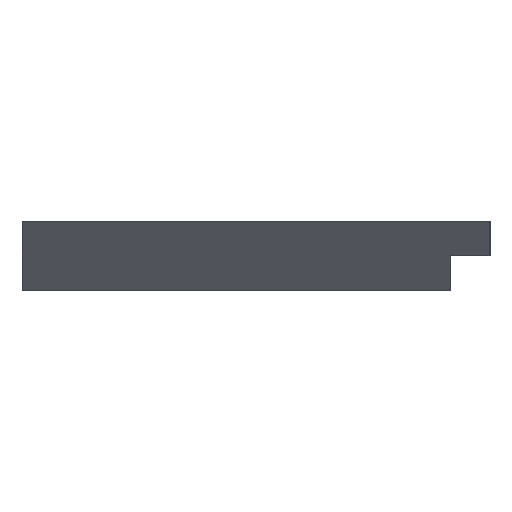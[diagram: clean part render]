
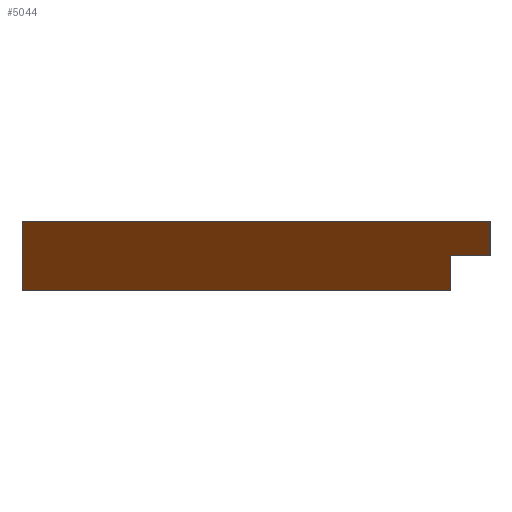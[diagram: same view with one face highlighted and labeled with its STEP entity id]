
A CAD part, left-side view. The second image highlights one B-rep face of the part: STEP entity #5044.
In plain terms, the highlighted planar face has unit normal (-0.707, 0, -0.707).
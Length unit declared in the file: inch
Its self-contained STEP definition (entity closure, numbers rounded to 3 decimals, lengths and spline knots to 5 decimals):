
#39 = CARTESIAN_POINT ( 'NONE',  ( -4.1875, 3., 2.6875 ) ) ;
#253 = CARTESIAN_POINT ( 'NONE',  ( -4.1875, 0.25, 2.6875 ) ) ;
#365 = DIRECTION ( 'NONE',  ( 0.707, 0., -0.707 ) ) ;
#440 = EDGE_CURVE ( 'NONE', #3959, #4846, #1475, .T. ) ;
#489 = CARTESIAN_POINT ( 'NONE',  ( -3.96875, 0.25, 2.46875 ) ) ;
#574 = CARTESIAN_POINT ( 'NONE',  ( -3.75, 0.25, 2.25 ) ) ;
#646 = CARTESIAN_POINT ( 'NONE',  ( -3.96875, 0.25, 2.46875 ) ) ;
#785 = DIRECTION ( 'NONE',  ( 0.707, 0., -0.707 ) ) ;
#872 = ORIENTED_EDGE ( 'NONE', *, *, #3588, .T. ) ;
#939 = VECTOR ( 'NONE', #5051, 39.37008 ) ;
#950 = VECTOR ( 'NONE', #3442, 39.37008 ) ;
#978 = CARTESIAN_POINT ( 'NONE',  ( -4.1875, 0., 2.6875 ) ) ;
#984 = CARTESIAN_POINT ( 'NONE',  ( -4.1875, 0., 2.6875 ) ) ;
#999 = LINE ( 'NONE', #1407, #4259 ) ;
#1017 = VECTOR ( 'NONE', #785, 39.37008 ) ;
#1060 = CARTESIAN_POINT ( 'NONE',  ( -4.1875, 3., 2.6875 ) ) ;
#1267 = ORIENTED_EDGE ( 'NONE', *, *, #1866, .T. ) ;
#1407 = CARTESIAN_POINT ( 'NONE',  ( -3.75, 3., 2.25 ) ) ;
#1424 = VECTOR ( 'NONE', #365, 39.37008 ) ;
#1475 = LINE ( 'NONE', #253, #2748 ) ;
#1572 = EDGE_LOOP ( 'NONE', ( #3565, #872, #4672, #1603, #1267, #4575 ) ) ;
#1603 = ORIENTED_EDGE ( 'NONE', *, *, #4686, .F. ) ;
#1783 = DIRECTION ( 'NONE',  ( 0.707, 0., 0.707 ) ) ;
#1866 = EDGE_CURVE ( 'NONE', #1967, #3900, #1954, .T. ) ;
#1954 = LINE ( 'NONE', #39, #1017 ) ;
#1967 = VERTEX_POINT ( 'NONE', #3801 ) ;
#1987 = AXIS2_PLACEMENT_3D ( 'NONE', #984, #1783, #2598 ) ;
#2127 = EDGE_CURVE ( 'NONE', #4694, #3257, #3424, .T. ) ;
#2572 = FACE_OUTER_BOUND ( 'NONE', #1572, .T. ) ;
#2598 = DIRECTION ( 'NONE',  ( 0.707, 0., -0.707 ) ) ;
#2748 = VECTOR ( 'NONE', #4127, 39.37008 ) ;
#3257 = VERTEX_POINT ( 'NONE', #4369 ) ;
#3325 = PLANE ( 'NONE',  #1987 ) ;
#3424 = LINE ( 'NONE', #4727, #1424 ) ;
#3442 = DIRECTION ( 'NONE',  ( 0., -1., 0. ) ) ;
#3565 = ORIENTED_EDGE ( 'NONE', *, *, #440, .F. ) ;
#3588 = EDGE_CURVE ( 'NONE', #3959, #3257, #4207, .T. ) ;
#3801 = CARTESIAN_POINT ( 'NONE',  ( -4.1875, 3., 2.6875 ) ) ;
#3900 = VERTEX_POINT ( 'NONE', #4391 ) ;
#3959 = VERTEX_POINT ( 'NONE', #489 ) ;
#4107 = EDGE_CURVE ( 'NONE', #3900, #4846, #999, .T. ) ;
#4127 = DIRECTION ( 'NONE',  ( 0.707, 0., -0.707 ) ) ;
#4207 = LINE ( 'NONE', #646, #950 ) ;
#4259 = VECTOR ( 'NONE', #4554, 39.37008 ) ;
#4315 = LINE ( 'NONE', #1060, #939 ) ;
#4369 = CARTESIAN_POINT ( 'NONE',  ( -3.96875, 0., 2.46875 ) ) ;
#4391 = CARTESIAN_POINT ( 'NONE',  ( -3.75, 3., 2.25 ) ) ;
#4554 = DIRECTION ( 'NONE',  ( 0., -1., 0. ) ) ;
#4575 = ORIENTED_EDGE ( 'NONE', *, *, #4107, .T. ) ;
#4672 = ORIENTED_EDGE ( 'NONE', *, *, #2127, .F. ) ;
#4686 = EDGE_CURVE ( 'NONE', #1967, #4694, #4315, .T. ) ;
#4694 = VERTEX_POINT ( 'NONE', #978 ) ;
#4727 = CARTESIAN_POINT ( 'NONE',  ( -4.1875, 0., 2.6875 ) ) ;
#4846 = VERTEX_POINT ( 'NONE', #574 ) ;
#5044 = ADVANCED_FACE ( 'NONE', ( #2572 ), #3325, .F. ) ;
#5051 = DIRECTION ( 'NONE',  ( 0., -1., 0. ) ) ;
